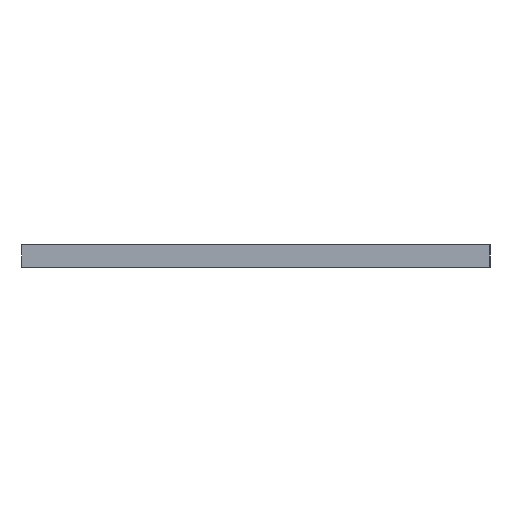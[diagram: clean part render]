
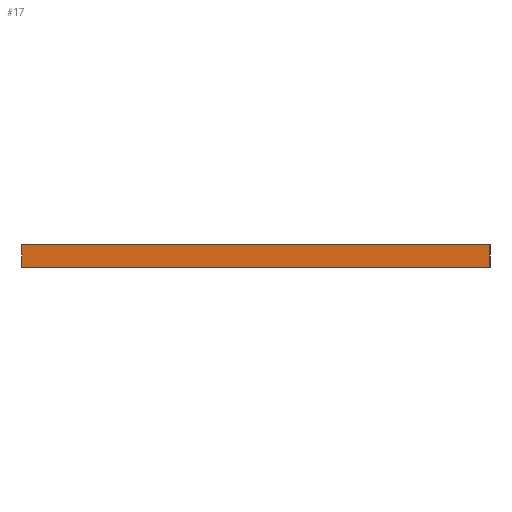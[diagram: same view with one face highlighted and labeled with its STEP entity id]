
A CAD part, left-side view. The second image highlights one B-rep face of the part: STEP entity #17.
In plain terms, the highlighted planar face has unit normal (-1, 0, 0).
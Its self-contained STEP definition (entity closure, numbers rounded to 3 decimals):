
#17 = ADVANCED_FACE('',(#18),#32,.F.);
#18 = FACE_BOUND('',#19,.F.);
#19 = EDGE_LOOP('',(#20,#55,#83,#111));
#20 = ORIENTED_EDGE('',*,*,#21,.F.);
#21 = EDGE_CURVE('',#22,#24,#26,.T.);
#22 = VERTEX_POINT('',#23);
#23 = CARTESIAN_POINT('',(-38.,84.,10.));
#24 = VERTEX_POINT('',#25);
#25 = CARTESIAN_POINT('',(-38.,84.,12.));
#26 = SURFACE_CURVE('',#27,(#31,#43),.PCURVE_S1.);
#27 = LINE('',#28,#29);
#28 = CARTESIAN_POINT('',(-38.,84.,10.));
#29 = VECTOR('',#30,1.);
#30 = DIRECTION('',(0.,0.,1.));
#31 = PCURVE('',#32,#37);
#32 = PLANE('',#33);
#33 = AXIS2_PLACEMENT_3D('',#34,#35,#36);
#34 = CARTESIAN_POINT('',(-38.,84.,10.));
#35 = DIRECTION('',(1.,0.,0.));
#36 = DIRECTION('',(0.,0.,1.));
#37 = DEFINITIONAL_REPRESENTATION('',(#38),#42);
#38 = LINE('',#39,#40);
#39 = CARTESIAN_POINT('',(0.,0.));
#40 = VECTOR('',#41,1.);
#41 = DIRECTION('',(1.,0.));
#42 = ( GEOMETRIC_REPRESENTATION_CONTEXT(2) 
PARAMETRIC_REPRESENTATION_CONTEXT() REPRESENTATION_CONTEXT('2D SPACE',''
  ) );
#43 = PCURVE('',#44,#49);
#44 = PLANE('',#45);
#45 = AXIS2_PLACEMENT_3D('',#46,#47,#48);
#46 = CARTESIAN_POINT('',(-38.,84.,10.));
#47 = DIRECTION('',(0.,1.,0.));
#48 = DIRECTION('',(0.,0.,1.));
#49 = DEFINITIONAL_REPRESENTATION('',(#50),#54);
#50 = LINE('',#51,#52);
#51 = CARTESIAN_POINT('',(0.,0.));
#52 = VECTOR('',#53,1.);
#53 = DIRECTION('',(1.,0.));
#54 = ( GEOMETRIC_REPRESENTATION_CONTEXT(2) 
PARAMETRIC_REPRESENTATION_CONTEXT() REPRESENTATION_CONTEXT('2D SPACE',''
  ) );
#55 = ORIENTED_EDGE('',*,*,#56,.T.);
#56 = EDGE_CURVE('',#22,#57,#59,.T.);
#57 = VERTEX_POINT('',#58);
#58 = CARTESIAN_POINT('',(-38.,126.,10.));
#59 = SURFACE_CURVE('',#60,(#64,#71),.PCURVE_S1.);
#60 = LINE('',#61,#62);
#61 = CARTESIAN_POINT('',(-38.,84.,10.));
#62 = VECTOR('',#63,1.);
#63 = DIRECTION('',(0.,1.,0.));
#64 = PCURVE('',#32,#65);
#65 = DEFINITIONAL_REPRESENTATION('',(#66),#70);
#66 = LINE('',#67,#68);
#67 = CARTESIAN_POINT('',(0.,0.));
#68 = VECTOR('',#69,1.);
#69 = DIRECTION('',(0.,-1.));
#70 = ( GEOMETRIC_REPRESENTATION_CONTEXT(2) 
PARAMETRIC_REPRESENTATION_CONTEXT() REPRESENTATION_CONTEXT('2D SPACE',''
  ) );
#71 = PCURVE('',#72,#77);
#72 = PLANE('',#73);
#73 = AXIS2_PLACEMENT_3D('',#74,#75,#76);
#74 = CARTESIAN_POINT('',(-38.,84.,10.));
#75 = DIRECTION('',(0.,0.,1.));
#76 = DIRECTION('',(1.,0.,0.));
#77 = DEFINITIONAL_REPRESENTATION('',(#78),#82);
#78 = LINE('',#79,#80);
#79 = CARTESIAN_POINT('',(0.,0.));
#80 = VECTOR('',#81,1.);
#81 = DIRECTION('',(0.,1.));
#82 = ( GEOMETRIC_REPRESENTATION_CONTEXT(2) 
PARAMETRIC_REPRESENTATION_CONTEXT() REPRESENTATION_CONTEXT('2D SPACE',''
  ) );
#83 = ORIENTED_EDGE('',*,*,#84,.T.);
#84 = EDGE_CURVE('',#57,#85,#87,.T.);
#85 = VERTEX_POINT('',#86);
#86 = CARTESIAN_POINT('',(-38.,126.,12.));
#87 = SURFACE_CURVE('',#88,(#92,#99),.PCURVE_S1.);
#88 = LINE('',#89,#90);
#89 = CARTESIAN_POINT('',(-38.,126.,10.));
#90 = VECTOR('',#91,1.);
#91 = DIRECTION('',(0.,0.,1.));
#92 = PCURVE('',#32,#93);
#93 = DEFINITIONAL_REPRESENTATION('',(#94),#98);
#94 = LINE('',#95,#96);
#95 = CARTESIAN_POINT('',(0.,-42.));
#96 = VECTOR('',#97,1.);
#97 = DIRECTION('',(1.,0.));
#98 = ( GEOMETRIC_REPRESENTATION_CONTEXT(2) 
PARAMETRIC_REPRESENTATION_CONTEXT() REPRESENTATION_CONTEXT('2D SPACE',''
  ) );
#99 = PCURVE('',#100,#105);
#100 = PLANE('',#101);
#101 = AXIS2_PLACEMENT_3D('',#102,#103,#104);
#102 = CARTESIAN_POINT('',(-38.,126.,10.));
#103 = DIRECTION('',(0.,1.,0.));
#104 = DIRECTION('',(0.,0.,1.));
#105 = DEFINITIONAL_REPRESENTATION('',(#106),#110);
#106 = LINE('',#107,#108);
#107 = CARTESIAN_POINT('',(0.,0.));
#108 = VECTOR('',#109,1.);
#109 = DIRECTION('',(1.,0.));
#110 = ( GEOMETRIC_REPRESENTATION_CONTEXT(2) 
PARAMETRIC_REPRESENTATION_CONTEXT() REPRESENTATION_CONTEXT('2D SPACE',''
  ) );
#111 = ORIENTED_EDGE('',*,*,#112,.F.);
#112 = EDGE_CURVE('',#24,#85,#113,.T.);
#113 = SURFACE_CURVE('',#114,(#118,#125),.PCURVE_S1.);
#114 = LINE('',#115,#116);
#115 = CARTESIAN_POINT('',(-38.,84.,12.));
#116 = VECTOR('',#117,1.);
#117 = DIRECTION('',(0.,1.,0.));
#118 = PCURVE('',#32,#119);
#119 = DEFINITIONAL_REPRESENTATION('',(#120),#124);
#120 = LINE('',#121,#122);
#121 = CARTESIAN_POINT('',(2.,0.));
#122 = VECTOR('',#123,1.);
#123 = DIRECTION('',(0.,-1.));
#124 = ( GEOMETRIC_REPRESENTATION_CONTEXT(2) 
PARAMETRIC_REPRESENTATION_CONTEXT() REPRESENTATION_CONTEXT('2D SPACE',''
  ) );
#125 = PCURVE('',#126,#131);
#126 = PLANE('',#127);
#127 = AXIS2_PLACEMENT_3D('',#128,#129,#130);
#128 = CARTESIAN_POINT('',(-38.,84.,12.));
#129 = DIRECTION('',(0.,0.,1.));
#130 = DIRECTION('',(1.,0.,0.));
#131 = DEFINITIONAL_REPRESENTATION('',(#132),#136);
#132 = LINE('',#133,#134);
#133 = CARTESIAN_POINT('',(0.,0.));
#134 = VECTOR('',#135,1.);
#135 = DIRECTION('',(0.,1.));
#136 = ( GEOMETRIC_REPRESENTATION_CONTEXT(2) 
PARAMETRIC_REPRESENTATION_CONTEXT() REPRESENTATION_CONTEXT('2D SPACE',''
  ) );
